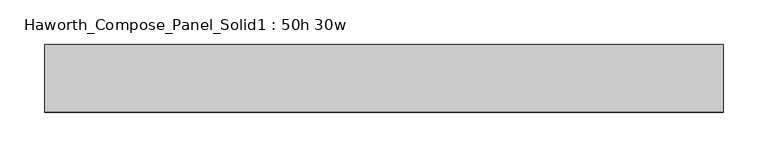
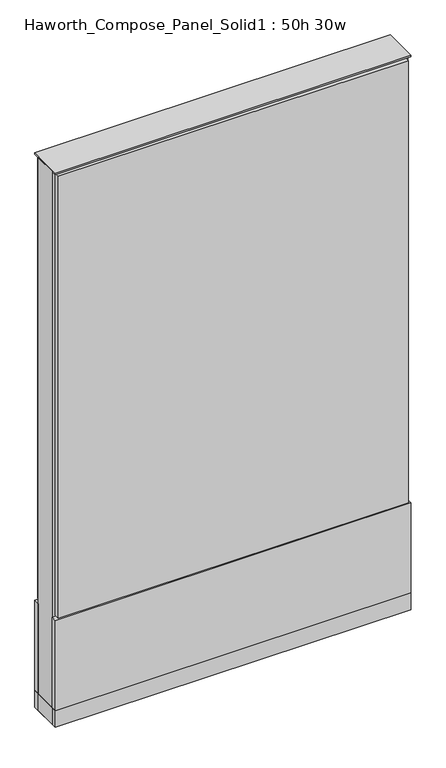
"""IFC4 building model written with IfcOpenShell, lengths in millimetres: furniture geometry, Haworth_Compose_Panel_Solid1 : 50h 30w."""

from ifc_helpers import new_model, si_unit, point, frame, frame_2d, origin, origin_with_axes, place, context, project, spatial, polyline, circle_curve, trimmed, segment, composite_curve, outline, extrude, source, transform, mapped, element, save


def haworth_compose_panel_solid1_50h_30w_a3512ea6(model_context):
    return source(origin(), model_context, "Body", "SweptSolid", [
        extrude(outline(composite_curve([segment(trimmed(circle_curve(frame_2d((-302.3597098, 0.0)), 12.7), [point((-315.0597098, 0.0))], [point((-289.6597098, 0.0))], False, "CARTESIAN"), True, "CONTINUOUS"), segment(trimmed(circle_curve(frame_2d((-302.3597098, 0.0)), 12.7), [point((-289.6597098, 0.0))], [point((-315.0597098, 0.0))], False, "CARTESIAN"), True, "CONTINUOUS")], self_intersect=False)), origin_with_axes(), (0.0, 0.0, 1.0), 12.7),
        extrude(outline(composite_curve([segment(trimmed(circle_curve(frame_2d((307.2402902, 0.0)), 12.7), [point((294.5402902, 0.0))], [point((319.9402902, 0.0))], False, "CARTESIAN"), True, "CONTINUOUS"), segment(trimmed(circle_curve(frame_2d((307.2402902, 0.0)), 12.7), [point((319.9402902, 0.0))], [point((294.5402902, 0.0))], False, "CARTESIAN"), True, "CONTINUOUS")], self_intersect=False)), origin_with_axes(), (0.0, 0.0, 1.0), 12.7),
        extrude(outline(polyline([(377.0902902, 38.1), (377.0902902, 25.4), (-372.2097098, 25.4), (-372.2097098, 38.1), (377.0902902, 38.1)])), frame((0.0, 0.0, 257.175), z_axis=(0.0, 0.0, 1.0), x_axis=(1.0, 0.0, 0.0)), (0.0, 0.0, 1.0), 1000.125),
        extrude(outline(polyline([(383.4402902, 38.1), (383.4402902, 25.4), (-378.5597098, 25.4), (-378.5597098, 38.1), (383.4402902, 38.1)])), frame((0.0, 0.0, 50.8), z_axis=(0.0, 0.0, 1.0), x_axis=(1.0, 0.0, 0.0)), (0.0, 0.0, 1.0), 203.2),
        extrude(outline(polyline([(383.4402902, -38.1), (-378.5597098, -38.1), (-378.5597098, -25.4), (383.4402902, -25.4), (383.4402902, -38.1)])), frame((0.0, 0.0, 50.8), z_axis=(0.0, 0.0, 1.0), x_axis=(1.0, 0.0, 0.0)), (0.0, 0.0, 1.0), 203.2),
        extrude(outline(polyline([(377.0902902, -38.1), (-372.2097098, -38.1), (-372.2097098, -25.4), (377.0902902, -25.4), (377.0902902, -38.1)])), frame((0.0, 0.0, 257.175), z_axis=(0.0, 0.0, 1.0), x_axis=(1.0, 0.0, 0.0)), (0.0, 0.0, 1.0), 1000.125),
        extrude(outline(polyline([(383.4402902, 25.4), (383.4402902, -25.4), (-378.5597098, -25.4), (-378.5597098, 25.4), (383.4402902, 25.4)])), frame((0.0, 0.0, 12.7), z_axis=(0.0, 0.0, 1.0), x_axis=(1.0, 0.0, 0.0)), (0.0, 0.0, 1.0), 1250.95),
        extrude(outline(polyline([(-378.5597098, -38.1), (-378.5597098, 38.1), (383.4402902, 38.1), (383.4402902, -38.1), (-378.5597098, -38.1)])), frame((0.0, 0.0, 12.7), z_axis=(0.0, 0.0, 1.0), x_axis=(1.0, 0.0, 0.0)), (0.0, 0.0, 1.0), 38.1),
        extrude(outline(polyline([(-378.5597098, -38.1), (-378.5597098, 38.1), (383.4402902, 38.1), (383.4402902, -38.1), (-378.5597098, -38.1)])), frame((0.0, 0.0, 1263.65), z_axis=(0.0, 0.0, 1.0), x_axis=(1.0, 0.0, 0.0)), (0.0, 0.0, 1.0), 3.175),
    ])


if __name__ == "__main__":
    model = new_model("IFC4")
    model_context = context("Model", 3, world=origin())
    ifc_project = project(units=[si_unit("LENGTHUNIT", "METRE", prefix="MILLI")], contexts=[model_context])
    site = spatial("IfcSite", under=ifc_project)
    building = spatial("IfcBuilding", under=site)
    placement = place(None, origin())
    haworth_compose_panel_solid1_50h_30w_shape = haworth_compose_panel_solid1_50h_30w_a3512ea6(model_context)
    element("IfcFurniture", 1, ObjectType="Haworth_Compose_Panel_Solid1 : 50h 30w", at=placement, inside=building, context=model_context, shape_type="MappedRepresentation", body=[
        mapped(haworth_compose_panel_solid1_50h_30w_shape, transform((0.0, 0.0, 0.0), x_axis=(1.0, 0.0, 0.0), y_axis=(0.0, 1.0, 0.0), z_axis=(0.0, 0.0, 1.0))),
    ])
    save(model, "model.ifc")
